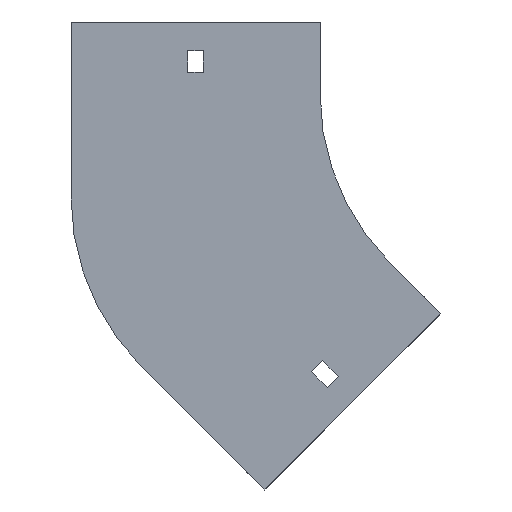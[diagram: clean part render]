
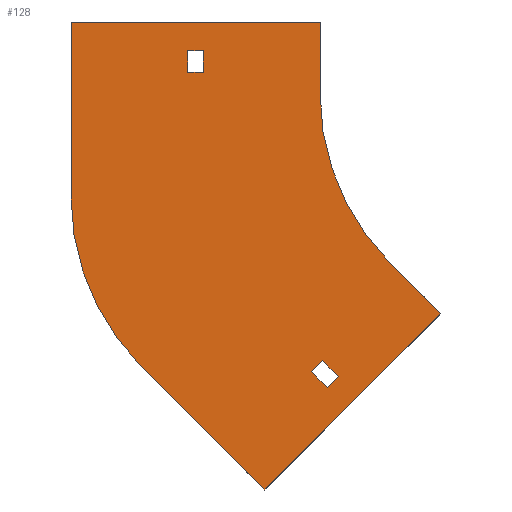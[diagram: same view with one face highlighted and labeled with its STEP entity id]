
A CAD part, front view. The second image highlights one B-rep face of the part: STEP entity #128.
In plain terms, the highlighted planar face has unit normal (0, -1, 0).
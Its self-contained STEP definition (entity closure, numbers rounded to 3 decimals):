
#26 = VERTEX_POINT ( 'NONE', #313 ) ;
#45 = CARTESIAN_POINT ( 'NONE',  ( -155.25, 0., 9. ) ) ;
#56 = ORIENTED_EDGE ( 'NONE', *, *, #480, .F. ) ;
#58 = DIRECTION ( 'NONE',  ( 0., 1., 0. ) ) ;
#73 = DIRECTION ( 'NONE',  ( -0.707, 0., 0.707 ) ) ;
#77 = VERTEX_POINT ( 'NONE', #1183 ) ;
#99 = VECTOR ( 'NONE', #369, 1000. ) ;
#108 = ORIENTED_EDGE ( 'NONE', *, *, #443, .F. ) ;
#123 = CARTESIAN_POINT ( 'NONE',  ( -148.75, 0., 18. ) ) ;
#126 = CARTESIAN_POINT ( 'NONE',  ( -148.75, 0., 9. ) ) ;
#128 = ADVANCED_FACE ( 'NONE', ( #979, #287, #1168 ), #1300, .T. ) ;
#138 = ORIENTED_EDGE ( 'NONE', *, *, #527, .F. ) ;
#147 = VERTEX_POINT ( 'NONE', #1293 ) ;
#150 = CARTESIAN_POINT ( 'NONE',  ( -155.25, 0., 9. ) ) ;
#162 = DIRECTION ( 'NONE',  ( 1., 0., 0. ) ) ;
#182 = VECTOR ( 'NONE', #931, 1000. ) ;
#214 = ORIENTED_EDGE ( 'NONE', *, *, #697, .F. ) ;
#217 = LINE ( 'NONE', #892, #925 ) ;
#230 = ORIENTED_EDGE ( 'NONE', *, *, #630, .F. ) ;
#236 = EDGE_CURVE ( 'NONE', #675, #446, #217, .T. ) ;
#240 = CARTESIAN_POINT ( 'NONE',  ( -148.75, 0., 9. ) ) ;
#242 = CARTESIAN_POINT ( 'NONE',  ( -155.25, 0., 18. ) ) ;
#249 = VERTEX_POINT ( 'NONE', #326 ) ;
#251 = ORIENTED_EDGE ( 'NONE', *, *, #385, .T. ) ;
#287 = FACE_OUTER_BOUND ( 'NONE', #293, .T. ) ;
#293 = EDGE_LOOP ( 'NONE', ( #56, #740, #696, #891, #491, #539, #1152, #214 ) ) ;
#313 = CARTESIAN_POINT ( 'NONE',  ( -155.25, 0., 9. ) ) ;
#320 = VECTOR ( 'NONE', #1392, 1000. ) ;
#326 = CARTESIAN_POINT ( 'NONE',  ( -92.454, 0., -117.91 ) ) ;
#341 = VECTOR ( 'NONE', #472, 1000. ) ;
#348 = DIRECTION ( 'NONE',  ( 0., 0., 1. ) ) ;
#349 = DIRECTION ( 'NONE',  ( 0., 0., -1. ) ) ;
#369 = DIRECTION ( 'NONE',  ( 0.707, 0., 0.707 ) ) ;
#378 = EDGE_CURVE ( 'NONE', #934, #788, #1235, .T. ) ;
#381 = EDGE_CURVE ( 'NONE', #147, #1325, #1285, .T. ) ;
#385 = EDGE_CURVE ( 'NONE', #26, #934, #487, .T. ) ;
#388 = VECTOR ( 'NONE', #348, 1000. ) ;
#410 = VERTEX_POINT ( 'NONE', #924 ) ;
#415 = CARTESIAN_POINT ( 'NONE',  ( -204., 0., -43.078 ) ) ;
#418 = EDGE_CURVE ( 'NONE', #1401, #26, #460, .T. ) ;
#426 = VERTEX_POINT ( 'NONE', #1156 ) ;
#435 = EDGE_CURVE ( 'NONE', #410, #249, #1243, .T. ) ;
#443 = EDGE_CURVE ( 'NONE', #249, #1288, #686, .T. ) ;
#446 = VERTEX_POINT ( 'NONE', #1227 ) ;
#452 = VECTOR ( 'NONE', #786, 1000. ) ;
#460 = LINE ( 'NONE', #45, #341 ) ;
#472 = DIRECTION ( 'NONE',  ( -1., 0., 0. ) ) ;
#475 = CARTESIAN_POINT ( 'NONE',  ( -100., 0., 30. ) ) ;
#477 = VECTOR ( 'NONE', #162, 1000. ) ;
#480 = EDGE_CURVE ( 'NONE', #1027, #426, #680, .T. ) ;
#487 = LINE ( 'NONE', #150, #388 ) ;
#491 = ORIENTED_EDGE ( 'NONE', *, *, #1146, .F. ) ;
#499 = VECTOR ( 'NONE', #670, 1000. ) ;
#509 = LINE ( 'NONE', #415, #644 ) ;
#527 = EDGE_CURVE ( 'NONE', #1083, #410, #1372, .T. ) ;
#530 = ORIENTED_EDGE ( 'NONE', *, *, #1200, .T. ) ;
#532 = CARTESIAN_POINT ( 'NONE',  ( -103.414, 0., -116.142 ) ) ;
#534 = LINE ( 'NONE', #634, #816 ) ;
#539 = ORIENTED_EDGE ( 'NONE', *, *, #236, .F. ) ;
#560 = CARTESIAN_POINT ( 'NONE',  ( -70.711, 0., -70.711 ) ) ;
#583 = EDGE_LOOP ( 'NONE', ( #251, #946, #530, #1060 ) ) ;
#604 = CARTESIAN_POINT ( 'NONE',  ( 0., 0., 0. ) ) ;
#608 = CARTESIAN_POINT ( 'NONE',  ( -103.414, 0., -116.142 ) ) ;
#614 = DIRECTION ( 'NONE',  ( 0., 0., -1. ) ) ;
#630 = EDGE_CURVE ( 'NONE', #1288, #1083, #631, .T. ) ;
#631 = LINE ( 'NONE', #1084, #499 ) ;
#634 = CARTESIAN_POINT ( 'NONE',  ( -123.037, 0., -165.463 ) ) ;
#644 = VECTOR ( 'NONE', #745, 1000. ) ;
#670 = DIRECTION ( 'NONE',  ( -0.707, 0., -0.707 ) ) ;
#675 = VERTEX_POINT ( 'NONE', #560 ) ;
#680 = LINE ( 'NONE', #1129, #756 ) ;
#685 = DIRECTION ( 'NONE',  ( -0.707, 0., -0.707 ) ) ;
#686 = LINE ( 'NONE', #1150, #452 ) ;
#696 = ORIENTED_EDGE ( 'NONE', *, *, #381, .F. ) ;
#697 = EDGE_CURVE ( 'NONE', #426, #77, #784, .T. ) ;
#704 = EDGE_CURVE ( 'NONE', #77, #675, #1177, .T. ) ;
#708 = DIRECTION ( 'NONE',  ( 1., 0., 0. ) ) ;
#711 = AXIS2_PLACEMENT_3D ( 'NONE', #1143, #58, #1349 ) ;
#715 = VECTOR ( 'NONE', #685, 1000. ) ;
#740 = ORIENTED_EDGE ( 'NONE', *, *, #1284, .F. ) ;
#745 = DIRECTION ( 'NONE',  ( 0., 0., 1. ) ) ;
#753 = CARTESIAN_POINT ( 'NONE',  ( -98.818, 0., -111.546 ) ) ;
#756 = VECTOR ( 'NONE', #708, 1000. ) ;
#769 = DIRECTION ( 'NONE',  ( 0.707, 0., -0.707 ) ) ;
#784 = LINE ( 'NONE', #475, #879 ) ;
#786 = DIRECTION ( 'NONE',  ( -0.707, 0., 0.707 ) ) ;
#788 = VERTEX_POINT ( 'NONE', #123 ) ;
#816 = VECTOR ( 'NONE', #73, 1000. ) ;
#847 = DIRECTION ( 'NONE',  ( 0., -1., 0. ) ) ;
#879 = VECTOR ( 'NONE', #1252, 1000. ) ;
#891 = ORIENTED_EDGE ( 'NONE', *, *, #1354, .F. ) ;
#892 = CARTESIAN_POINT ( 'NONE',  ( -70.711, 0., -70.711 ) ) ;
#923 = LINE ( 'NONE', #1042, #715 ) ;
#924 = CARTESIAN_POINT ( 'NONE',  ( -97.05, 0., -122.506 ) ) ;
#925 = VECTOR ( 'NONE', #769, 1000. ) ;
#928 = AXIS2_PLACEMENT_3D ( 'NONE', #604, #1337, #349 ) ;
#931 = DIRECTION ( 'NONE',  ( 0., 0., -1. ) ) ;
#932 = CARTESIAN_POINT ( 'NONE',  ( -97.05, 0., -122.506 ) ) ;
#934 = VERTEX_POINT ( 'NONE', #242 ) ;
#942 = VERTEX_POINT ( 'NONE', #1263 ) ;
#946 = ORIENTED_EDGE ( 'NONE', *, *, #378, .T. ) ;
#979 = FACE_BOUND ( 'NONE', #583, .T. ) ;
#1027 = VERTEX_POINT ( 'NONE', #1385 ) ;
#1042 = CARTESIAN_POINT ( 'NONE',  ( -49.497, 0., -91.924 ) ) ;
#1060 = ORIENTED_EDGE ( 'NONE', *, *, #418, .T. ) ;
#1083 = VERTEX_POINT ( 'NONE', #532 ) ;
#1084 = CARTESIAN_POINT ( 'NONE',  ( -103.414, 0., -116.142 ) ) ;
#1129 = CARTESIAN_POINT ( 'NONE',  ( -204., 0., 30. ) ) ;
#1143 = CARTESIAN_POINT ( 'NONE',  ( -104., 0., -43.078 ) ) ;
#1146 = EDGE_CURVE ( 'NONE', #446, #942, #923, .T. ) ;
#1149 = LINE ( 'NONE', #240, #182 ) ;
#1150 = CARTESIAN_POINT ( 'NONE',  ( -98.818, 0., -111.546 ) ) ;
#1152 = ORIENTED_EDGE ( 'NONE', *, *, #704, .F. ) ;
#1156 = CARTESIAN_POINT ( 'NONE',  ( -100., 0., 30. ) ) ;
#1168 = FACE_BOUND ( 'NONE', #1229, .T. ) ;
#1177 = CIRCLE ( 'NONE', #928, 100. ) ;
#1183 = CARTESIAN_POINT ( 'NONE',  ( -100., 0., 0. ) ) ;
#1194 = CARTESIAN_POINT ( 'NONE',  ( -204., 0., -43.078 ) ) ;
#1197 = AXIS2_PLACEMENT_3D ( 'NONE', #1270, #847, #614 ) ;
#1200 = EDGE_CURVE ( 'NONE', #788, #1401, #1149, .T. ) ;
#1227 = CARTESIAN_POINT ( 'NONE',  ( -49.497, 0., -91.924 ) ) ;
#1229 = EDGE_LOOP ( 'NONE', ( #1347, #138, #230, #108 ) ) ;
#1235 = LINE ( 'NONE', #1335, #477 ) ;
#1243 = LINE ( 'NONE', #932, #99 ) ;
#1252 = DIRECTION ( 'NONE',  ( 0., 0., -1. ) ) ;
#1263 = CARTESIAN_POINT ( 'NONE',  ( -123.037, 0., -165.463 ) ) ;
#1270 = CARTESIAN_POINT ( 'NONE',  ( 0., 0., 0. ) ) ;
#1284 = EDGE_CURVE ( 'NONE', #1325, #1027, #509, .T. ) ;
#1285 = CIRCLE ( 'NONE', #711, 100. ) ;
#1288 = VERTEX_POINT ( 'NONE', #753 ) ;
#1293 = CARTESIAN_POINT ( 'NONE',  ( -174.711, 0., -113.789 ) ) ;
#1300 = PLANE ( 'NONE',  #1197 ) ;
#1325 = VERTEX_POINT ( 'NONE', #1194 ) ;
#1335 = CARTESIAN_POINT ( 'NONE',  ( -155.25, 0., 18. ) ) ;
#1337 = DIRECTION ( 'NONE',  ( 0., -1., 0. ) ) ;
#1347 = ORIENTED_EDGE ( 'NONE', *, *, #435, .F. ) ;
#1349 = DIRECTION ( 'NONE',  ( 0., 0., 1. ) ) ;
#1354 = EDGE_CURVE ( 'NONE', #942, #147, #534, .T. ) ;
#1372 = LINE ( 'NONE', #608, #320 ) ;
#1385 = CARTESIAN_POINT ( 'NONE',  ( -204., 0., 30. ) ) ;
#1392 = DIRECTION ( 'NONE',  ( 0.707, 0., -0.707 ) ) ;
#1401 = VERTEX_POINT ( 'NONE', #126 ) ;
